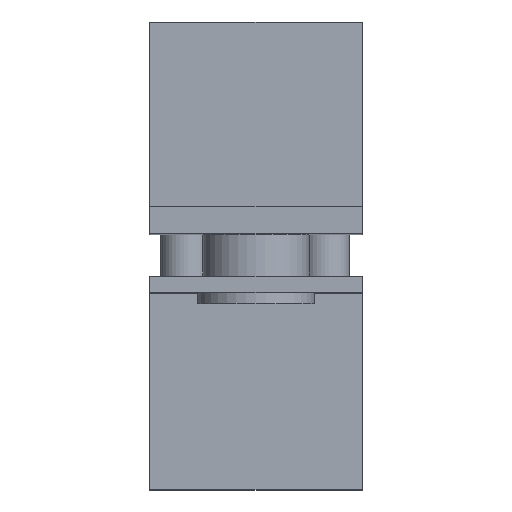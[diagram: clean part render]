
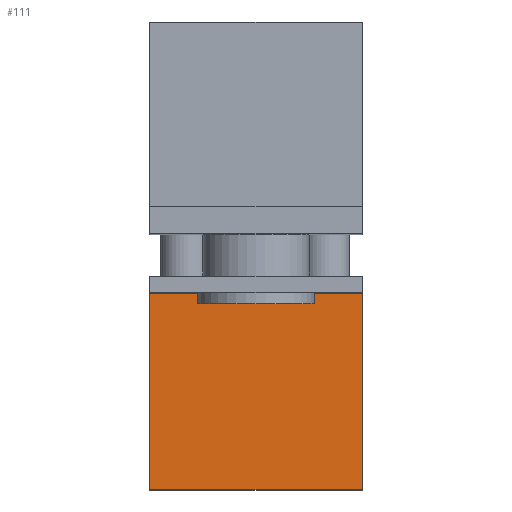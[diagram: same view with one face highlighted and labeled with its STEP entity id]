
A CAD part, top view. The second image highlights one B-rep face of the part: STEP entity #111.
In plain terms, the highlighted planar face has unit normal (0, 0, 1).
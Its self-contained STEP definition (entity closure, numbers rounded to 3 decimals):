
#111 = ADVANCED_FACE( '', ( #231 ), #232, .F. );
#231 = FACE_OUTER_BOUND( '', #348, .T. );
#232 = PLANE( '', #349 );
#348 = EDGE_LOOP( '', ( #590, #591, #592, #593 ) );
#349 = AXIS2_PLACEMENT_3D( '', #594, #595, #596 );
#590 = ORIENTED_EDGE( '', *, *, #651, .T. );
#591 = ORIENTED_EDGE( '', *, *, #706, .F. );
#592 = ORIENTED_EDGE( '', *, *, #724, .F. );
#593 = ORIENTED_EDGE( '', *, *, #712, .T. );
#594 = CARTESIAN_POINT( '', ( 35., 33., 4.1 ) );
#595 = DIRECTION( '', ( 0., 0., -1. ) );
#596 = DIRECTION( '', ( 0., 1., 0. ) );
#651 = EDGE_CURVE( '', #764, #762, #765, .T. );
#706 = EDGE_CURVE( '', #848, #762, #850, .T. );
#712 = EDGE_CURVE( '', #857, #764, #858, .T. );
#724 = EDGE_CURVE( '', #857, #848, #872, .T. );
#762 = VERTEX_POINT( '', #921 );
#764 = VERTEX_POINT( '', #924 );
#765 = LINE( '', #925, #926 );
#848 = VERTEX_POINT( '', #1042 );
#850 = LINE( '', #1045, #1046 );
#857 = VERTEX_POINT( '', #1054 );
#858 = LINE( '', #1055, #1056 );
#872 = LINE( '', #1076, #1077 );
#921 = CARTESIAN_POINT( '', ( -5., -4., 4.1 ) );
#924 = CARTESIAN_POINT( '', ( -5., 33., 4.1 ) );
#925 = CARTESIAN_POINT( '', ( -5., 33., 4.1 ) );
#926 = VECTOR( '', #1108, 1000. );
#1042 = CARTESIAN_POINT( '', ( 35., -4., 4.1 ) );
#1045 = CARTESIAN_POINT( '', ( 35., -4., 4.1 ) );
#1046 = VECTOR( '', #1161, 1000. );
#1054 = CARTESIAN_POINT( '', ( 35., 33., 4.1 ) );
#1055 = CARTESIAN_POINT( '', ( 35., 33., 4.1 ) );
#1056 = VECTOR( '', #1166, 1000. );
#1076 = CARTESIAN_POINT( '', ( 35., 33., 4.1 ) );
#1077 = VECTOR( '', #1173, 1000. );
#1108 = DIRECTION( '', ( 0., -1., 0. ) );
#1161 = DIRECTION( '', ( -1., 0., 0. ) );
#1166 = DIRECTION( '', ( -1., 0., 0. ) );
#1173 = DIRECTION( '', ( 0., -1., 0. ) );
